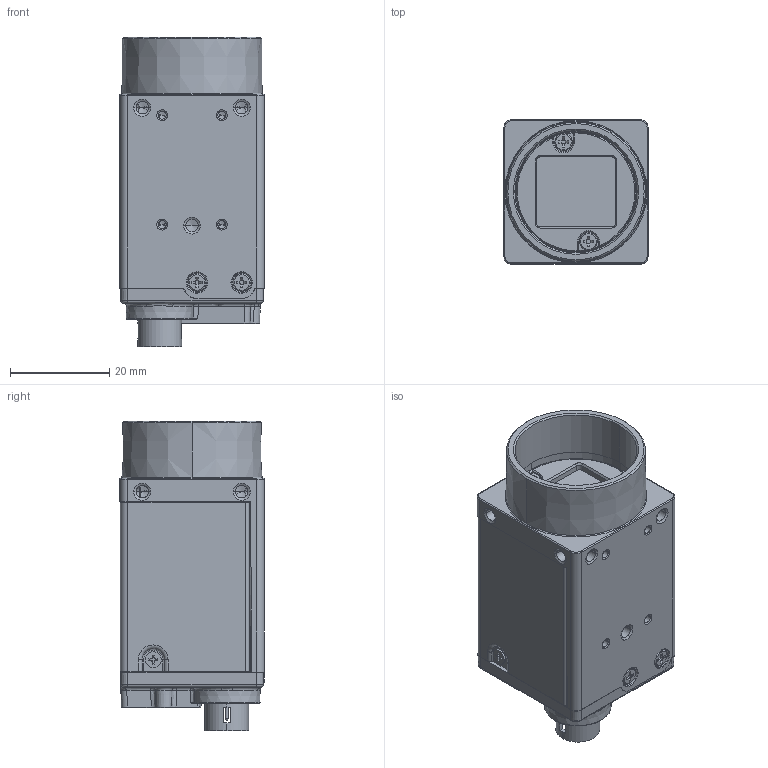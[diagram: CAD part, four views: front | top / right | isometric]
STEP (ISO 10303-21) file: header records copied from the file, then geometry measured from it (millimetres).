
FILE_DESCRIPTION((''),'2;1');
FILE_NAME('0-DH9-RDI000508-0000','2024-05-16T16:24:20',('21511'),(''),'CREO PARAMETRIC BY PTC INC, 2020184','CREO PARAMETRIC BY PTC INC, 2020184','');
FILE_SCHEMA(('CONFIG_CONTROL_DESIGN','SHAPE_APPEARANCE_LAYERS_GROUPS'));
Products named in the file (1): 0-DH9-RDI000508-0000
Bounding box: 29 x 29 x 62.3 mm (x, y, z)
Volume: 36500.4 mm3; surface area: 15515.8 mm2
Topology: 1 solids, 9 shells, 1636 faces, 4489 edges, 2825 vertices
Faces by surface type: plane 874, cylinder 420, cone 166, torus 75, bspline 69, extrusion 19, sphere 13
Entity records: 69954 total; most frequent: CARTESIAN_POINT 14366, ORIENTED_EDGE 8846, DIRECTION 8169, PRESENTATION_STYLE_ASSIGNMENT 4528, STYLED_ITEM 4424, CURVE_STYLE 4423, EDGE_CURVE 4423, VECTOR 2923
